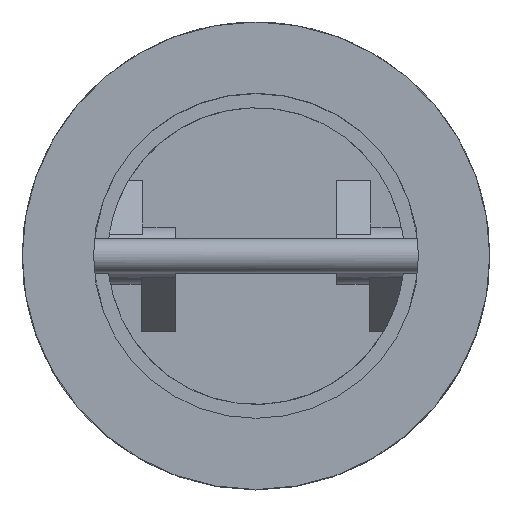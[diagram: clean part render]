
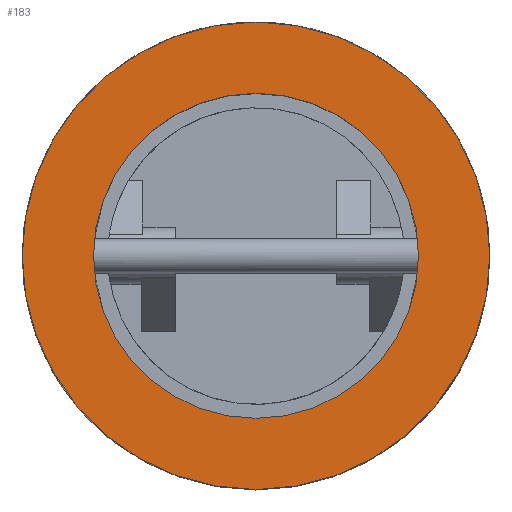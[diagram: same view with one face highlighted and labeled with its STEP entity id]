
A CAD part, top view. The second image highlights one B-rep face of the part: STEP entity #183.
In plain terms, the highlighted planar face has unit normal (0, 0, 1).
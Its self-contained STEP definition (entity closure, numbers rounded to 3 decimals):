
#183=ADVANCED_FACE('',(#822,#824),#826,.T.);
#822=FACE_BOUND('',#823,.T.);
#823=EDGE_LOOP('',(#1339));
#824=FACE_BOUND('',#825,.T.);
#825=EDGE_LOOP('',(#1340));
#826=PLANE('',#827);
#827=AXIS2_PLACEMENT_3D('',#828,#829,#830);
#828=CARTESIAN_POINT('',(0.,0.,43.));
#829=DIRECTION('',(0.,0.,1.));
#830=DIRECTION('',(0.,-1.,0.));
#1339=ORIENTED_EDGE('',*,*,#1681,.T.);
#1340=ORIENTED_EDGE('',*,*,#1691,.F.);
#1681=EDGE_CURVE('',#1899,#1899,#1900,.T.);
#1691=EDGE_CURVE('',#1919,#1919,#1920,.T.);
#1899=VERTEX_POINT('',#2306);
#1900=CIRCLE('',#2307,41.);
#1919=VERTEX_POINT('',#2352);
#1920=CIRCLE('',#2353,28.5);
#2306=CARTESIAN_POINT('',(0.,-41.,43.));
#2307=AXIS2_PLACEMENT_3D('',#2308,#2309,#2310);
#2308=CARTESIAN_POINT('',(0.,0.,43.));
#2309=DIRECTION('',(0.,0.,1.));
#2310=DIRECTION('',(0.,-1.,0.));
#2352=CARTESIAN_POINT('',(0.,-28.5,43.));
#2353=AXIS2_PLACEMENT_3D('',#2354,#2355,#2356);
#2354=CARTESIAN_POINT('',(0.,0.,43.));
#2355=DIRECTION('',(0.,0.,1.));
#2356=DIRECTION('',(0.,-1.,0.));
